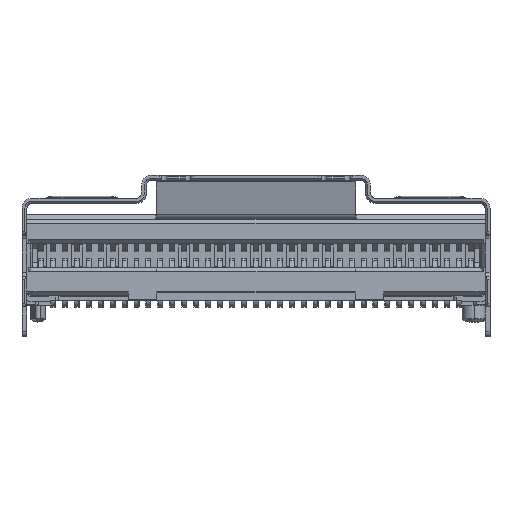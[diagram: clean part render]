
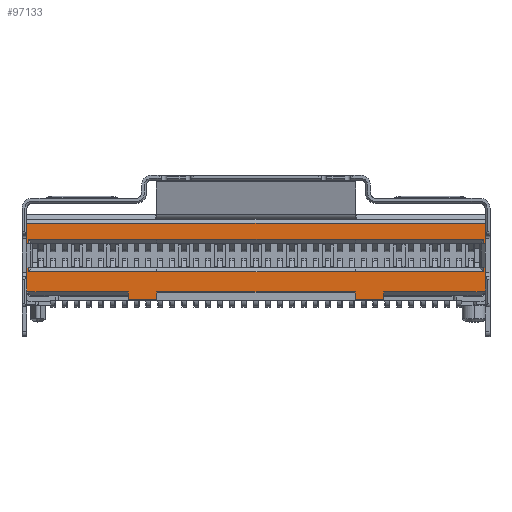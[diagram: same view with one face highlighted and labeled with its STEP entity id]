
A CAD part, top view. The second image highlights one B-rep face of the part: STEP entity #97133.
In plain terms, the highlighted planar face has unit normal (0, 0, 1).
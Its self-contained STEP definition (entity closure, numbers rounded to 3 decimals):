
#21465=DIRECTION('',(1.,0.,0.));
#21466=VECTOR('',#21465,1.43);
#21467=CARTESIAN_POINT('',(-6.415,-2.22,0.));
#21468=LINE('',#21467,#21466);
#21481=DIRECTION('',(1.,0.,0.));
#21482=VECTOR('',#21481,1.43);
#21483=CARTESIAN_POINT('',(4.985,-2.22,0.));
#21484=LINE('',#21483,#21482);
#21672=DIRECTION('',(1.,0.,0.));
#21673=VECTOR('',#21672,23.);
#21674=CARTESIAN_POINT('',(-11.5,1.62,0.));
#21675=LINE('',#21674,#21673);
#21676=DIRECTION('',(0.,-1.,0.));
#21677=VECTOR('',#21676,1.02);
#21678=CARTESIAN_POINT('',(11.5,1.62,0.));
#21679=LINE('',#21678,#21677);
#21680=DIRECTION('',(0.,-1.,0.));
#21681=VECTOR('',#21680,1.17);
#21682=CARTESIAN_POINT('',(11.5,-0.6,0.));
#21683=LINE('',#21682,#21681);
#21684=DIRECTION('',(0.,-1.,0.));
#21685=VECTOR('',#21684,0.05);
#21686=CARTESIAN_POINT('',(11.5,-1.77,0.));
#21687=LINE('',#21686,#21685);
#21688=DIRECTION('',(-1.,0.,0.));
#21689=VECTOR('',#21688,5.085);
#21690=CARTESIAN_POINT('',(11.5,-1.82,0.));
#21691=LINE('',#21690,#21689);
#21692=DIRECTION('',(0.,-1.,0.));
#21693=VECTOR('',#21692,0.4);
#21694=CARTESIAN_POINT('',(6.415,-1.82,0.));
#21695=LINE('',#21694,#21693);
#21696=DIRECTION('',(-1.,0.,0.));
#21697=VECTOR('',#21696,9.97);
#21698=CARTESIAN_POINT('',(4.985,-1.82,0.));
#21699=LINE('',#21698,#21697);
#21700=DIRECTION('',(0.,-1.,0.));
#21701=VECTOR('',#21700,0.4);
#21702=CARTESIAN_POINT('',(-4.985,-1.82,0.));
#21703=LINE('',#21702,#21701);
#21704=DIRECTION('',(-1.,0.,0.));
#21705=VECTOR('',#21704,5.085);
#21706=CARTESIAN_POINT('',(-6.415,-1.82,0.));
#21707=LINE('',#21706,#21705);
#21708=DIRECTION('',(0.,1.,0.));
#21709=VECTOR('',#21708,0.05);
#21710=CARTESIAN_POINT('',(-11.5,-1.82,0.));
#21711=LINE('',#21710,#21709);
#21712=DIRECTION('',(0.,1.,0.));
#21713=VECTOR('',#21712,1.62);
#21714=CARTESIAN_POINT('',(11.44,-0.81,0.));
#21715=LINE('',#21714,#21713);
#21716=DIRECTION('',(-1.,0.001,0.));
#21717=VECTOR('',#21716,6.455);
#21718=CARTESIAN_POINT('',(11.44,0.81,0.));
#21719=LINE('',#21718,#21717);
#21720=DIRECTION('',(-1.,0.,0.));
#21721=VECTOR('',#21720,9.97);
#21722=CARTESIAN_POINT('',(4.985,0.815,0.));
#21723=LINE('',#21722,#21721);
#21724=DIRECTION('',(-1.,-0.001,0.));
#21725=VECTOR('',#21724,6.455);
#21726=CARTESIAN_POINT('',(-4.985,0.815,0.));
#21727=LINE('',#21726,#21725);
#21728=DIRECTION('',(0.,-1.,0.));
#21729=VECTOR('',#21728,1.62);
#21730=CARTESIAN_POINT('',(-11.44,0.81,0.));
#21731=LINE('',#21730,#21729);
#21732=DIRECTION('',(1.,-0.001,0.));
#21733=VECTOR('',#21732,6.455);
#21734=CARTESIAN_POINT('',(-11.44,-0.81,0.));
#21735=LINE('',#21734,#21733);
#21736=DIRECTION('',(1.,0.,0.));
#21737=VECTOR('',#21736,9.97);
#21738=CARTESIAN_POINT('',(-4.985,-0.815,0.));
#21739=LINE('',#21738,#21737);
#21740=DIRECTION('',(1.,0.001,0.));
#21741=VECTOR('',#21740,6.455);
#21742=CARTESIAN_POINT('',(4.985,-0.815,0.));
#21743=LINE('',#21742,#21741);
#23583=DIRECTION('',(0.,-1.,0.));
#23584=VECTOR('',#23583,1.02);
#23585=CARTESIAN_POINT('',(-11.5,1.62,0.));
#23586=LINE('',#23585,#23584);
#23595=DIRECTION('',(0.,-1.,0.));
#23596=VECTOR('',#23595,1.17);
#23597=CARTESIAN_POINT('',(-11.5,-0.6,0.));
#23598=LINE('',#23597,#23596);
#23721=DIRECTION('',(0.,-1.,0.));
#23722=VECTOR('',#23721,1.2);
#23723=CARTESIAN_POINT('',(-11.5,0.6,0.));
#23724=LINE('',#23723,#23722);
#23906=DIRECTION('',(0.,-1.,0.));
#23907=VECTOR('',#23906,0.4);
#23908=CARTESIAN_POINT('',(-6.415,-1.82,0.));
#23909=LINE('',#23908,#23907);
#29769=DIRECTION('',(0.,1.,0.));
#29770=VECTOR('',#29769,1.2);
#29771=CARTESIAN_POINT('',(11.5,-0.6,0.));
#29772=LINE('',#29771,#29770);
#29794=DIRECTION('',(0.,-1.,0.));
#29795=VECTOR('',#29794,0.4);
#29796=CARTESIAN_POINT('',(4.985,-1.82,0.));
#29797=LINE('',#29796,#29795);
#51582=CARTESIAN_POINT('',(-6.415,-1.82,0.));
#51583=VERTEX_POINT('',#51582);
#51584=CARTESIAN_POINT('',(-6.415,-2.22,0.));
#51585=VERTEX_POINT('',#51584);
#51697=CARTESIAN_POINT('',(11.5,-1.82,0.));
#51698=VERTEX_POINT('',#51697);
#51699=CARTESIAN_POINT('',(11.5,-1.77,0.));
#51700=VERTEX_POINT('',#51699);
#52717=CARTESIAN_POINT('',(-11.5,1.62,0.));
#52718=VERTEX_POINT('',#52717);
#52719=CARTESIAN_POINT('',(-11.5,0.6,0.));
#52720=VERTEX_POINT('',#52719);
#52725=CARTESIAN_POINT('',(-11.5,-0.6,0.));
#52726=VERTEX_POINT('',#52725);
#52727=CARTESIAN_POINT('',(-11.5,-1.77,0.));
#52728=VERTEX_POINT('',#52727);
#52786=CARTESIAN_POINT('',(11.5,1.62,0.));
#52787=VERTEX_POINT('',#52786);
#52837=CARTESIAN_POINT('',(11.5,-0.6,0.));
#52838=VERTEX_POINT('',#52837);
#52843=CARTESIAN_POINT('',(11.5,0.6,0.));
#52844=VERTEX_POINT('',#52843);
#52957=CARTESIAN_POINT('',(6.415,-1.82,0.));
#52958=VERTEX_POINT('',#52957);
#52959=CARTESIAN_POINT('',(6.415,-2.22,0.));
#52960=VERTEX_POINT('',#52959);
#52961=CARTESIAN_POINT('',(4.985,-2.22,0.));
#52962=VERTEX_POINT('',#52961);
#52963=CARTESIAN_POINT('',(4.985,-1.82,0.));
#52964=VERTEX_POINT('',#52963);
#52965=CARTESIAN_POINT('',(-4.985,-1.82,0.));
#52966=VERTEX_POINT('',#52965);
#52967=CARTESIAN_POINT('',(-4.985,-2.22,0.));
#52968=VERTEX_POINT('',#52967);
#52969=CARTESIAN_POINT('',(-11.5,-1.82,0.));
#52970=VERTEX_POINT('',#52969);
#52971=CARTESIAN_POINT('',(11.44,-0.81,0.));
#52972=CARTESIAN_POINT('',(11.44,0.81,0.));
#52973=VERTEX_POINT('',#52971);
#52974=VERTEX_POINT('',#52972);
#52975=CARTESIAN_POINT('',(4.985,0.815,0.));
#52976=VERTEX_POINT('',#52975);
#52977=CARTESIAN_POINT('',(-4.985,0.815,0.));
#52978=VERTEX_POINT('',#52977);
#52979=CARTESIAN_POINT('',(-11.44,0.81,0.));
#52980=VERTEX_POINT('',#52979);
#52981=CARTESIAN_POINT('',(-11.44,-0.81,0.));
#52982=VERTEX_POINT('',#52981);
#52983=CARTESIAN_POINT('',(-4.985,-0.815,0.));
#52984=VERTEX_POINT('',#52983);
#52985=CARTESIAN_POINT('',(4.985,-0.815,0.));
#52986=VERTEX_POINT('',#52985);
#97075=CARTESIAN_POINT('',(5.4,0.,0.));
#97076=DIRECTION('',(0.,0.,1.));
#97077=DIRECTION('',(1.,0.,0.));
#97078=AXIS2_PLACEMENT_3D('',#97075,#97076,#97077);
#97079=PLANE('',#97078);
#97081=ORIENTED_EDGE('',*,*,#97080,.T.);
#97083=ORIENTED_EDGE('',*,*,#97082,.T.);
#97085=ORIENTED_EDGE('',*,*,#97084,.F.);
#97087=ORIENTED_EDGE('',*,*,#97086,.T.);
#97089=ORIENTED_EDGE('',*,*,#97088,.T.);
#97091=ORIENTED_EDGE('',*,*,#97090,.T.);
#97092=ORIENTED_EDGE('',*,*,#97068,.T.);
#97093=ORIENTED_EDGE('',*,*,#96810,.F.);
#97095=ORIENTED_EDGE('',*,*,#97094,.F.);
#97097=ORIENTED_EDGE('',*,*,#97096,.T.);
#97099=ORIENTED_EDGE('',*,*,#97098,.T.);
#97100=ORIENTED_EDGE('',*,*,#96802,.F.);
#97102=ORIENTED_EDGE('',*,*,#97101,.F.);
#97104=ORIENTED_EDGE('',*,*,#97103,.T.);
#97106=ORIENTED_EDGE('',*,*,#97105,.T.);
#97108=ORIENTED_EDGE('',*,*,#97107,.F.);
#97110=ORIENTED_EDGE('',*,*,#97109,.F.);
#97112=ORIENTED_EDGE('',*,*,#97111,.F.);
#97113=EDGE_LOOP('',(#97081,#97083,#97085,#97087,#97089,#97091,#97092,#97093,
#97095,#97097,#97099,#97100,#97102,#97104,#97106,#97108,#97110,#97112));
#97114=FACE_OUTER_BOUND('',#97113,.F.);
#97116=ORIENTED_EDGE('',*,*,#97115,.T.);
#97118=ORIENTED_EDGE('',*,*,#97117,.T.);
#97120=ORIENTED_EDGE('',*,*,#97119,.T.);
#97122=ORIENTED_EDGE('',*,*,#97121,.T.);
#97124=ORIENTED_EDGE('',*,*,#97123,.T.);
#97126=ORIENTED_EDGE('',*,*,#97125,.T.);
#97128=ORIENTED_EDGE('',*,*,#97127,.T.);
#97130=ORIENTED_EDGE('',*,*,#97129,.T.);
#97131=EDGE_LOOP('',(#97116,#97118,#97120,#97122,#97124,#97126,#97128,#97130));
#97132=FACE_BOUND('',#97131,.F.);
#96802=EDGE_CURVE('',#51585,#52968,#21468,.T.);
#96810=EDGE_CURVE('',#52962,#52960,#21484,.T.);
#97068=EDGE_CURVE('',#52958,#52960,#21695,.T.);
#97080=EDGE_CURVE('',#52718,#52787,#21675,.T.);
#97082=EDGE_CURVE('',#52787,#52844,#21679,.T.);
#97084=EDGE_CURVE('',#52838,#52844,#29772,.T.);
#97086=EDGE_CURVE('',#52838,#51700,#21683,.T.);
#97088=EDGE_CURVE('',#51700,#51698,#21687,.T.);
#97090=EDGE_CURVE('',#51698,#52958,#21691,.T.);
#97094=EDGE_CURVE('',#52964,#52962,#29797,.T.);
#97096=EDGE_CURVE('',#52964,#52966,#21699,.T.);
#97098=EDGE_CURVE('',#52966,#52968,#21703,.T.);
#97101=EDGE_CURVE('',#51583,#51585,#23909,.T.);
#97103=EDGE_CURVE('',#51583,#52970,#21707,.T.);
#97105=EDGE_CURVE('',#52970,#52728,#21711,.T.);
#97107=EDGE_CURVE('',#52726,#52728,#23598,.T.);
#97109=EDGE_CURVE('',#52720,#52726,#23724,.T.);
#97111=EDGE_CURVE('',#52718,#52720,#23586,.T.);
#97115=EDGE_CURVE('',#52973,#52974,#21715,.T.);
#97117=EDGE_CURVE('',#52974,#52976,#21719,.T.);
#97119=EDGE_CURVE('',#52976,#52978,#21723,.T.);
#97121=EDGE_CURVE('',#52978,#52980,#21727,.T.);
#97123=EDGE_CURVE('',#52980,#52982,#21731,.T.);
#97125=EDGE_CURVE('',#52982,#52984,#21735,.T.);
#97127=EDGE_CURVE('',#52984,#52986,#21739,.T.);
#97129=EDGE_CURVE('',#52986,#52973,#21743,.T.);
#97133=ADVANCED_FACE('',(#97114,#97132),#97079,.T.);
